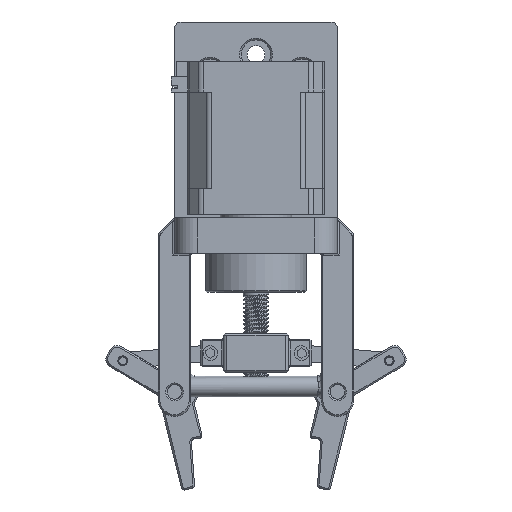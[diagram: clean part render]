
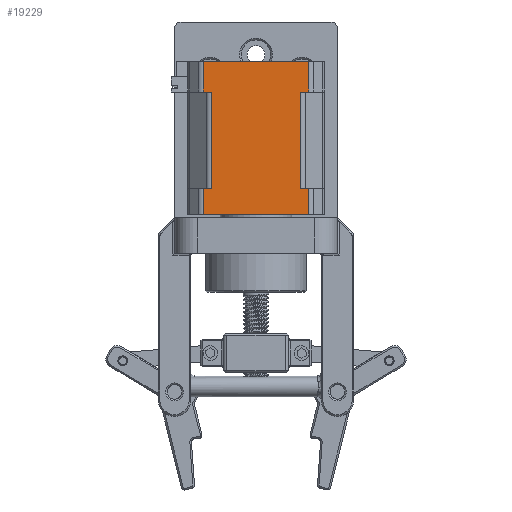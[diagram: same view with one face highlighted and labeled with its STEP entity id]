
A CAD part, front view. The second image highlights one B-rep face of the part: STEP entity #19229.
In plain terms, the highlighted planar face has unit normal (0, -1, 0).
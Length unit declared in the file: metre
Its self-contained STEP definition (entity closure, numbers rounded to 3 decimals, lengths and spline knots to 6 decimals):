
#32 = VERTEX_POINT ( 'NONE', #22228 ) ;
#408 = CARTESIAN_POINT ( 'NONE',  ( 0.016172, -0.021, -0.008 ) ) ;
#1608 = VERTEX_POINT ( 'NONE', #3682 ) ;
#2123 = EDGE_CURVE ( 'NONE', #1608, #39104, #24615, .T. ) ;
#2261 = DIRECTION ( 'NONE',  ( 0., -1., 0. ) ) ;
#3682 = CARTESIAN_POINT ( 'NONE',  ( 0.016172, -0.021, -0.0375 ) ) ;
#3836 = VECTOR ( 'NONE', #10635, 1. ) ;
#3853 = CARTESIAN_POINT ( 'NONE',  ( -0.016172, -0.021, -0.008 ) ) ;
#4016 = EDGE_CURVE ( 'NONE', #9174, #1608, #16261, .T. ) ;
#4094 = CARTESIAN_POINT ( 'NONE',  ( 0.013672, -0.021, -0.0375 ) ) ;
#4536 = VERTEX_POINT ( 'NONE', #9275 ) ;
#5091 = LINE ( 'NONE', #4094, #44058 ) ;
#5901 = VECTOR ( 'NONE', #26725, 1. ) ;
#6003 = VECTOR ( 'NONE', #42529, 1. ) ;
#6811 = EDGE_CURVE ( 'NONE', #43404, #36861, #47880, .T. ) ;
#7977 = LINE ( 'NONE', #35199, #6003 ) ;
#8130 = CARTESIAN_POINT ( 'NONE',  ( 0.016172, -0.021, -0.008 ) ) ;
#8611 = CARTESIAN_POINT ( 'NONE',  ( -0.016172, -0.021, -0.047 ) ) ;
#9134 = FACE_OUTER_BOUND ( 'NONE', #34597, .T. ) ;
#9174 = VERTEX_POINT ( 'NONE', #18051 ) ;
#9275 = CARTESIAN_POINT ( 'NONE',  ( -0.016172, -0.021, -0.047 ) ) ;
#10043 = VECTOR ( 'NONE', #17524, 1. ) ;
#10635 = DIRECTION ( 'NONE',  ( 1., 0., 0. ) ) ;
#11064 = EDGE_CURVE ( 'NONE', #4536, #23527, #27938, .T. ) ;
#11556 = ORIENTED_EDGE ( 'NONE', *, *, #49347, .T. ) ;
#11699 = CARTESIAN_POINT ( 'NONE',  ( 0.016172, -0.021, -0.047 ) ) ;
#12202 = DIRECTION ( 'NONE',  ( 1., 0., 0. ) ) ;
#13870 = EDGE_CURVE ( 'NONE', #30861, #21548, #34365, .T. ) ;
#13932 = EDGE_CURVE ( 'NONE', #39104, #34124, #5091, .T. ) ;
#13934 = ORIENTED_EDGE ( 'NONE', *, *, #15769, .F. ) ;
#14383 = VECTOR ( 'NONE', #12202, 1. ) ;
#14640 = CARTESIAN_POINT ( 'NONE',  ( -0.016172, -0.021, -0.0375 ) ) ;
#14709 = ORIENTED_EDGE ( 'NONE', *, *, #2123, .T. ) ;
#15276 = LINE ( 'NONE', #38907, #37802 ) ;
#15533 = DIRECTION ( 'NONE',  ( 0., 0., 1. ) ) ;
#15769 = EDGE_CURVE ( 'NONE', #32, #49456, #32800, .T. ) ;
#16261 = LINE ( 'NONE', #11699, #17664 ) ;
#16927 = DIRECTION ( 'NONE',  ( 0., 0., 1. ) ) ;
#17524 = DIRECTION ( 'NONE',  ( 0., 0., 1. ) ) ;
#17552 = AXIS2_PLACEMENT_3D ( 'NONE', #21828, #2261, #29215 ) ;
#17664 = VECTOR ( 'NONE', #43698, 1. ) ;
#17669 = ORIENTED_EDGE ( 'NONE', *, *, #6811, .T. ) ;
#18051 = CARTESIAN_POINT ( 'NONE',  ( 0.016172, -0.021, -0.047 ) ) ;
#19229 = ADVANCED_FACE ( 'NONE', ( #9134 ), #21090, .T. ) ;
#21090 = PLANE ( 'NONE',  #17552 ) ;
#21548 = VERTEX_POINT ( 'NONE', #49041 ) ;
#21828 = CARTESIAN_POINT ( 'NONE',  ( 0.016172, -0.021, -0.008 ) ) ;
#22228 = CARTESIAN_POINT ( 'NONE',  ( -0.013672, -0.021, -0.0375 ) ) ;
#23244 = VECTOR ( 'NONE', #35584, 1. ) ;
#23527 = VERTEX_POINT ( 'NONE', #41603 ) ;
#23885 = DIRECTION ( 'NONE',  ( 1., 0., 0. ) ) ;
#24124 = DIRECTION ( 'NONE',  ( 0., 0., 1. ) ) ;
#24615 = LINE ( 'NONE', #47700, #23244 ) ;
#24701 = CARTESIAN_POINT ( 'NONE',  ( 0.016172, -0.021, 0. ) ) ;
#25606 = ORIENTED_EDGE ( 'NONE', *, *, #36816, .T. ) ;
#26725 = DIRECTION ( 'NONE',  ( 0., 0., 1. ) ) ;
#27132 = CARTESIAN_POINT ( 'NONE',  ( 0.016172, -0.021, -0.008 ) ) ;
#27283 = ORIENTED_EDGE ( 'NONE', *, *, #49584, .T. ) ;
#27938 = LINE ( 'NONE', #8611, #31088 ) ;
#28000 = ORIENTED_EDGE ( 'NONE', *, *, #46849, .F. ) ;
#28480 = ORIENTED_EDGE ( 'NONE', *, *, #13870, .F. ) ;
#29215 = DIRECTION ( 'NONE',  ( 0., 0., -1. ) ) ;
#29441 = CARTESIAN_POINT ( 'NONE',  ( 0.013672, -0.021, -0.0375 ) ) ;
#30406 = DIRECTION ( 'NONE',  ( -1., 0., 0. ) ) ;
#30861 = VERTEX_POINT ( 'NONE', #46509 ) ;
#31088 = VECTOR ( 'NONE', #24124, 1. ) ;
#32703 = CARTESIAN_POINT ( 'NONE',  ( 0.016172, -0.021, -0.008 ) ) ;
#32800 = LINE ( 'NONE', #36365, #10043 ) ;
#33283 = EDGE_CURVE ( 'NONE', #9174, #4536, #7977, .T. ) ;
#34124 = VERTEX_POINT ( 'NONE', #44946 ) ;
#34365 = LINE ( 'NONE', #3853, #5901 ) ;
#34597 = EDGE_LOOP ( 'NONE', ( #28000, #28480, #11556, #13934, #25606, #39254, #39141, #49886, #14709, #41512, #27283, #17669 ) ) ;
#35199 = CARTESIAN_POINT ( 'NONE',  ( -0.016172, -0.021, -0.047 ) ) ;
#35584 = DIRECTION ( 'NONE',  ( -1., 0., 0. ) ) ;
#36365 = CARTESIAN_POINT ( 'NONE',  ( -0.013672, -0.021, -0.0375 ) ) ;
#36816 = EDGE_CURVE ( 'NONE', #32, #23527, #42320, .T. ) ;
#36861 = VERTEX_POINT ( 'NONE', #24701 ) ;
#37802 = VECTOR ( 'NONE', #23885, 1. ) ;
#38907 = CARTESIAN_POINT ( 'NONE',  ( 0.016172, -0.021, 0. ) ) ;
#39012 = VECTOR ( 'NONE', #16927, 1. ) ;
#39104 = VERTEX_POINT ( 'NONE', #29441 ) ;
#39141 = ORIENTED_EDGE ( 'NONE', *, *, #33283, .F. ) ;
#39254 = ORIENTED_EDGE ( 'NONE', *, *, #11064, .F. ) ;
#41512 = ORIENTED_EDGE ( 'NONE', *, *, #13932, .T. ) ;
#41603 = CARTESIAN_POINT ( 'NONE',  ( -0.016172, -0.021, -0.0375 ) ) ;
#42320 = LINE ( 'NONE', #14640, #49873 ) ;
#42529 = DIRECTION ( 'NONE',  ( -1., 0., 0. ) ) ;
#42942 = LINE ( 'NONE', #8130, #14383 ) ;
#43404 = VERTEX_POINT ( 'NONE', #408 ) ;
#43698 = DIRECTION ( 'NONE',  ( 0., 0., 1. ) ) ;
#44058 = VECTOR ( 'NONE', #15533, 1. ) ;
#44946 = CARTESIAN_POINT ( 'NONE',  ( 0.013672, -0.021, -0.008 ) ) ;
#46172 = LINE ( 'NONE', #27132, #3836 ) ;
#46509 = CARTESIAN_POINT ( 'NONE',  ( -0.016172, -0.021, -0.008 ) ) ;
#46849 = EDGE_CURVE ( 'NONE', #21548, #36861, #15276, .T. ) ;
#47700 = CARTESIAN_POINT ( 'NONE',  ( -0.016172, -0.021, -0.0375 ) ) ;
#47880 = LINE ( 'NONE', #32703, #39012 ) ;
#49041 = CARTESIAN_POINT ( 'NONE',  ( -0.016172, -0.021, 0. ) ) ;
#49207 = CARTESIAN_POINT ( 'NONE',  ( -0.013672, -0.021, -0.008 ) ) ;
#49347 = EDGE_CURVE ( 'NONE', #30861, #49456, #42942, .T. ) ;
#49456 = VERTEX_POINT ( 'NONE', #49207 ) ;
#49584 = EDGE_CURVE ( 'NONE', #34124, #43404, #46172, .T. ) ;
#49873 = VECTOR ( 'NONE', #30406, 1. ) ;
#49886 = ORIENTED_EDGE ( 'NONE', *, *, #4016, .T. ) ;
